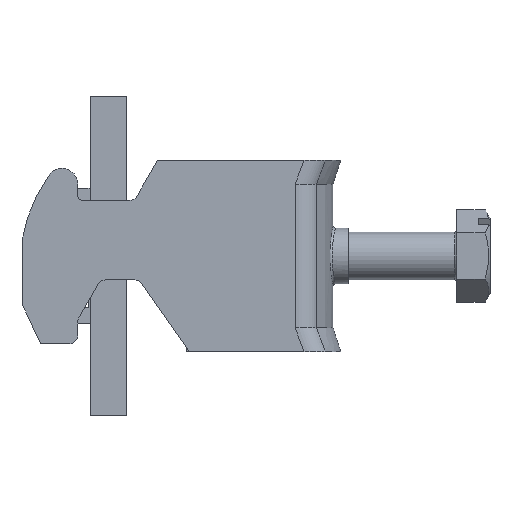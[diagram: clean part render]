
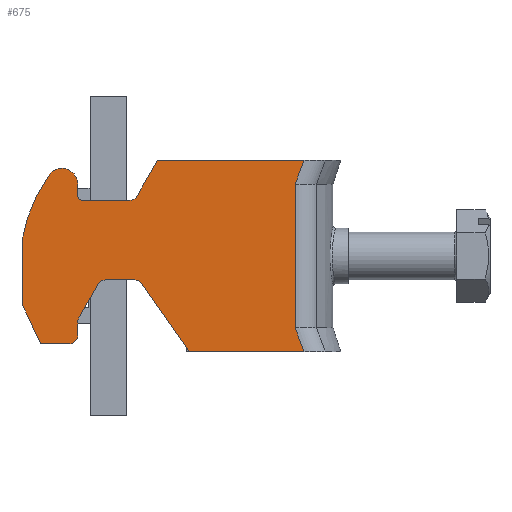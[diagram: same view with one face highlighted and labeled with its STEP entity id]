
A CAD part, left-side view. The second image highlights one B-rep face of the part: STEP entity #675.
In plain terms, the highlighted planar face has unit normal (-1, 0, 0).
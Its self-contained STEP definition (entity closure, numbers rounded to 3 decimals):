
#675=ADVANCED_FACE('',(#2506),#2508,.T.);
#2506=FACE_BOUND('',#2507,.T.);
#2507=EDGE_LOOP('',(#3937,#3938,#3939,#3940,#3941,#3942,#3943,#3944,#3945,#3946,
#3947,#3948,#3949,#3950,#3951,#3952,#3953,#3954,#3955,#3956,#3957,#3958,#3959,#3960));
#2508=PLANE('',#2509);
#2509=AXIS2_PLACEMENT_3D('',#2510,#2511,#2512);
#2510=CARTESIAN_POINT('',(-10.,39.,-9.));
#2511=DIRECTION('',(-1.,0.,0.));
#2512=DIRECTION('',(0.,-1.,0.));
#3937=ORIENTED_EDGE('',*,*,#4684,.T.);
#3938=ORIENTED_EDGE('',*,*,#4685,.T.);
#3939=ORIENTED_EDGE('',*,*,#4686,.T.);
#3940=ORIENTED_EDGE('',*,*,#4687,.T.);
#3941=ORIENTED_EDGE('',*,*,#4688,.T.);
#3942=ORIENTED_EDGE('',*,*,#4689,.T.);
#3943=ORIENTED_EDGE('',*,*,#4690,.T.);
#3944=ORIENTED_EDGE('',*,*,#4691,.T.);
#3945=ORIENTED_EDGE('',*,*,#4692,.T.);
#3946=ORIENTED_EDGE('',*,*,#4653,.T.);
#3947=ORIENTED_EDGE('',*,*,#4600,.T.);
#3948=ORIENTED_EDGE('',*,*,#4683,.T.);
#3949=ORIENTED_EDGE('',*,*,#4693,.T.);
#3950=ORIENTED_EDGE('',*,*,#4694,.F.);
#3951=ORIENTED_EDGE('',*,*,#4628,.T.);
#3952=ORIENTED_EDGE('',*,*,#4695,.T.);
#3953=ORIENTED_EDGE('',*,*,#4696,.T.);
#3954=ORIENTED_EDGE('',*,*,#4697,.T.);
#3955=ORIENTED_EDGE('',*,*,#4698,.T.);
#3956=ORIENTED_EDGE('',*,*,#4699,.T.);
#3957=ORIENTED_EDGE('',*,*,#4700,.T.);
#3958=ORIENTED_EDGE('',*,*,#4701,.T.);
#3959=ORIENTED_EDGE('',*,*,#4702,.T.);
#3960=ORIENTED_EDGE('',*,*,#4703,.F.);
#4600=EDGE_CURVE('',#5159,#5175,#5177,.T.);
#4628=EDGE_CURVE('',#5229,#5227,#5230,.T.);
#4653=EDGE_CURVE('',#5276,#5159,#5277,.F.);
#4683=EDGE_CURVE('',#5175,#5328,#5330,.T.);
#4684=EDGE_CURVE('',#5331,#5332,#5333,.F.);
#4685=EDGE_CURVE('',#5332,#5334,#5335,.F.);
#4686=EDGE_CURVE('',#5334,#5336,#5337,.T.);
#4687=EDGE_CURVE('',#5336,#5338,#5339,.F.);
#4688=EDGE_CURVE('',#5338,#5340,#5341,.T.);
#4689=EDGE_CURVE('',#5340,#5342,#5343,.F.);
#4690=EDGE_CURVE('',#5342,#5344,#5345,.T.);
#4691=EDGE_CURVE('',#5344,#5346,#5347,.F.);
#4692=EDGE_CURVE('',#5346,#5276,#5348,.T.);
#4693=EDGE_CURVE('',#5328,#5349,#5350,.T.);
#4694=EDGE_CURVE('',#5229,#5349,#5351,.T.);
#4695=EDGE_CURVE('',#5227,#5352,#5353,.F.);
#4696=EDGE_CURVE('',#5352,#5354,#5355,.T.);
#4697=EDGE_CURVE('',#5354,#5356,#5357,.F.);
#4698=EDGE_CURVE('',#5356,#5358,#5359,.T.);
#4699=EDGE_CURVE('',#5358,#5360,#5361,.F.);
#4700=EDGE_CURVE('',#5360,#5362,#5363,.T.);
#4701=EDGE_CURVE('',#5362,#5364,#5365,.T.);
#4702=EDGE_CURVE('',#5364,#5366,#5367,.T.);
#4703=EDGE_CURVE('',#5331,#5366,#5368,.T.);
#5159=VERTEX_POINT('',#6421);
#5175=VERTEX_POINT('',#6456);
#5177=LINE('',#6461,#6462);
#5227=VERTEX_POINT('',#6576);
#5229=VERTEX_POINT('',#6580);
#5230=LINE('',#6581,#6582);
#5276=VERTEX_POINT('',#6689);
#5277=LINE('',#6690,#6691);
#5328=VERTEX_POINT('',#6810);
#5330=LINE('',#6815,#6816);
#5331=VERTEX_POINT('',#6818);
#5332=VERTEX_POINT('',#6819);
#5333=LINE('',#6820,#6821);
#5334=VERTEX_POINT('',#6823);
#5335=LINE('',#6824,#6825);
#5336=VERTEX_POINT('',#6827);
#5337=CIRCLE('',#6828,1.);
#5338=VERTEX_POINT('',#6832);
#5339=LINE('',#6833,#6834);
#5340=VERTEX_POINT('',#6836);
#5341=CIRCLE('',#6837,1.);
#5342=VERTEX_POINT('',#6841);
#5343=LINE('',#6842,#6843);
#5344=VERTEX_POINT('',#6845);
#5345=CIRCLE('',#6846,1.);
#5346=VERTEX_POINT('',#6850);
#5347=LINE('',#6851,#6852);
#5348=CIRCLE('',#6854,1.);
#5349=VERTEX_POINT('',#6858);
#5350=LINE('',#6859,#6860);
#5351=LINE('',#6862,#6863);
#5352=VERTEX_POINT('',#6865);
#5353=LINE('',#6866,#6867);
#5354=VERTEX_POINT('',#6869);
#5355=CIRCLE('',#6870,1.);
#5356=VERTEX_POINT('',#6874);
#5357=LINE('',#6875,#6876);
#5358=VERTEX_POINT('',#6878);
#5359=CIRCLE('',#6879,0.6);
#5360=VERTEX_POINT('',#6883);
#5361=LINE('',#6884,#6885);
#5362=VERTEX_POINT('',#6887);
#5363=CIRCLE('',#6888,2.);
#5364=VERTEX_POINT('',#6892);
#5365=CIRCLE('',#6893,2.);
#5366=VERTEX_POINT('',#6897);
#5367=CIRCLE('',#6898,20.);
#5368=LINE('',#6902,#6903);
#6421=CARTESIAN_POINT('',(-10.,18.007,-12.));
#6456=CARTESIAN_POINT('',(-10.,3.638,-12.));
#6461=CARTESIAN_POINT('',(-10.,18.007,-12.));
#6462=VECTOR('',#6463,1.);
#6463=DIRECTION('',(0.,-1.,0.));
#6576=CARTESIAN_POINT('',(-10.,22.,12.));
#6580=CARTESIAN_POINT('',(-10.,3.638,12.));
#6581=CARTESIAN_POINT('',(-10.,3.638,12.));
#6582=VECTOR('',#6583,1.);
#6583=DIRECTION('',(0.,1.,0.));
#6689=CARTESIAN_POINT('',(-10.,24.011,-3.426));
#6690=CARTESIAN_POINT('',(-10.,18.007,-12.));
#6691=VECTOR('',#6692,1.);
#6692=DIRECTION('',(0.,0.574,0.819));
#6810=CARTESIAN_POINT('',(-10.,4.734,-9.));
#6815=CARTESIAN_POINT('',(-10.,3.638,-12.));
#6816=VECTOR('',#6817,1.);
#6817=DIRECTION('',(0.,0.343,0.939));
#6818=CARTESIAN_POINT('',(-10.,39.,-6.));
#6819=CARTESIAN_POINT('',(-10.,36.668,-11.));
#6820=CARTESIAN_POINT('',(-10.,36.668,-11.));
#6821=VECTOR('',#6822,1.);
#6822=DIRECTION('',(0.,0.423,0.906));
#6823=CARTESIAN_POINT('',(-10.,33.,-11.));
#6824=CARTESIAN_POINT('',(-10.,33.,-11.));
#6825=VECTOR('',#6826,1.);
#6826=DIRECTION('',(0.,1.,0.));
#6827=CARTESIAN_POINT('',(-10.,32.,-10.));
#6828=AXIS2_PLACEMENT_3D('',#6829,#6830,#6831);
#6829=CARTESIAN_POINT('',(-10.,33.,-10.));
#6830=DIRECTION('',(-1.,0.,0.));
#6831=DIRECTION('',(0.,0.,-1.));
#6832=CARTESIAN_POINT('',(-10.,32.,-8.268));
#6833=CARTESIAN_POINT('',(-10.,32.,-8.268));
#6834=VECTOR('',#6835,1.);
#6835=DIRECTION('',(0.,0.,-1.));
#6836=CARTESIAN_POINT('',(-10.,31.866,-7.768));
#6837=AXIS2_PLACEMENT_3D('',#6838,#6839,#6840);
#6838=CARTESIAN_POINT('',(-10.,31.,-8.268));
#6839=DIRECTION('',(1.,0.,0.));
#6840=DIRECTION('',(0.,1.,0.));
#6841=CARTESIAN_POINT('',(-10.,29.402,-3.5));
#6842=CARTESIAN_POINT('',(-10.,29.402,-3.5));
#6843=VECTOR('',#6844,1.);
#6844=DIRECTION('',(0.,0.5,-0.866));
#6845=CARTESIAN_POINT('',(-10.,28.536,-3.));
#6846=AXIS2_PLACEMENT_3D('',#6847,#6848,#6849);
#6847=CARTESIAN_POINT('',(-10.,28.536,-4.));
#6848=DIRECTION('',(1.,0.,0.));
#6849=DIRECTION('',(0.,0.866,0.5));
#6850=CARTESIAN_POINT('',(-10.,24.83,-3.));
#6851=CARTESIAN_POINT('',(-10.,24.83,-3.));
#6852=VECTOR('',#6853,1.);
#6853=DIRECTION('',(0.,1.,0.));
#6854=AXIS2_PLACEMENT_3D('',#6855,#6856,#6857);
#6855=CARTESIAN_POINT('',(-10.,24.83,-4.));
#6856=DIRECTION('',(1.,0.,0.));
#6857=DIRECTION('',(0.,0.,1.));
#6858=CARTESIAN_POINT('',(-10.,4.734,9.));
#6859=CARTESIAN_POINT('',(-10.,4.734,-9.));
#6860=VECTOR('',#6861,1.);
#6861=DIRECTION('',(0.,0.,1.));
#6862=CARTESIAN_POINT('',(-10.,3.638,12.));
#6863=VECTOR('',#6864,1.);
#6864=DIRECTION('',(0.,0.343,-0.939));
#6865=CARTESIAN_POINT('',(-10.,24.598,7.5));
#6866=CARTESIAN_POINT('',(-10.,24.598,7.5));
#6867=VECTOR('',#6868,1.);
#6868=DIRECTION('',(0.,-0.5,0.866));
#6869=CARTESIAN_POINT('',(-10.,25.464,7.));
#6870=AXIS2_PLACEMENT_3D('',#6871,#6872,#6873);
#6871=CARTESIAN_POINT('',(-10.,25.464,8.));
#6872=DIRECTION('',(1.,0.,0.));
#6873=DIRECTION('',(0.,-0.866,-0.5));
#6874=CARTESIAN_POINT('',(-10.,31.4,7.));
#6875=CARTESIAN_POINT('',(-10.,31.4,7.));
#6876=VECTOR('',#6877,1.);
#6877=DIRECTION('',(0.,-1.,0.));
#6878=CARTESIAN_POINT('',(-10.,32.,7.6));
#6879=AXIS2_PLACEMENT_3D('',#6880,#6881,#6882);
#6880=CARTESIAN_POINT('',(-10.,31.4,7.6));
#6881=DIRECTION('',(1.,0.,0.));
#6882=DIRECTION('',(0.,0.,-1.));
#6883=CARTESIAN_POINT('',(-10.,32.,9.));
#6884=CARTESIAN_POINT('',(-10.,32.,9.));
#6885=VECTOR('',#6886,1.);
#6886=DIRECTION('',(0.,0.,-1.));
#6887=CARTESIAN_POINT('',(-10.,34.,11.));
#6888=AXIS2_PLACEMENT_3D('',#6889,#6890,#6891);
#6889=CARTESIAN_POINT('',(-10.,34.,9.));
#6890=DIRECTION('',(-1.,0.,0.));
#6891=DIRECTION('',(0.,-1.,0.));
#6892=CARTESIAN_POINT('',(-10.,35.608,10.157));
#6893=AXIS2_PLACEMENT_3D('',#6894,#6895,#6896);
#6894=CARTESIAN_POINT('',(-10.,33.976,9.));
#6895=DIRECTION('',(-1.,0.,0.));
#6896=DIRECTION('',(0.,0.012,1.));
#6897=CARTESIAN_POINT('',(-10.,39.,1.987));
#6898=AXIS2_PLACEMENT_3D('',#6899,#6900,#6901);
#6899=CARTESIAN_POINT('',(-10.,19.29,-1.408));
#6900=DIRECTION('',(-1.,0.,0.));
#6901=DIRECTION('',(0.,0.816,0.578));
#6902=CARTESIAN_POINT('',(-10.,39.,-6.));
#6903=VECTOR('',#6904,1.);
#6904=DIRECTION('',(0.,0.,1.));
